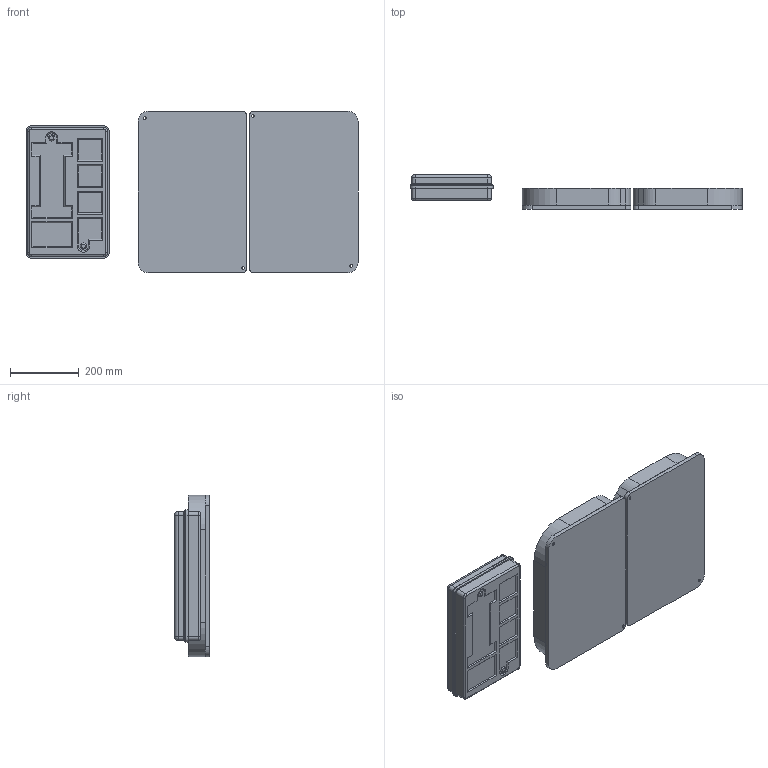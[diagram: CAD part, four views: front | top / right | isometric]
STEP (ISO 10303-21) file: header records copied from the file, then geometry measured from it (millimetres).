
FILE_DESCRIPTION(/* description */ (''),/* implementation_level */ '2;1');
FILE_NAME(/* name */ 'C:/Users/jakob/dev/fablabverket/students/100/web/assignments/week14/files/enclosure and molds.step',/* time_stamp */ '2017-05-10T13:35:51+02:00',/* author */ (''),/* organization */ (''),/* preprocessor_version */ 'ST-DEVELOPER v16.13',/* originating_system */ 'Autodesk Translation Framework v6.1.1.50',/* authorisation */ '');
FILE_SCHEMA (('AUTOMOTIVE_DESIGN { 1 0 10303 214 3 1 1 }'));
Length unit declared in the file: millimetre
Products named in the file (1): (Unsaved)
Bounding box: 965.94 x 101 x 470 mm (x, y, z)
Volume: 12019643.4 mm3; surface area: 2505517.5 mm2
Topology: 8 solids, 8 shells, 771 faces, 1787 edges, 1118 vertices
Faces by surface type: plane 447, cylinder 164, cone 80, torus 48, sphere 20, bspline 12
Full cylindrical faces by diameter (mm): 8 x4
Entity records: 21485 total; most frequent: CARTESIAN_POINT 3899, DIRECTION 3721, ORIENTED_EDGE 3506, EDGE_CURVE 1753, AXIS2_PLACEMENT_3D 1288, LINE 1145, VECTOR 1145, VERTEX_POINT 1118
